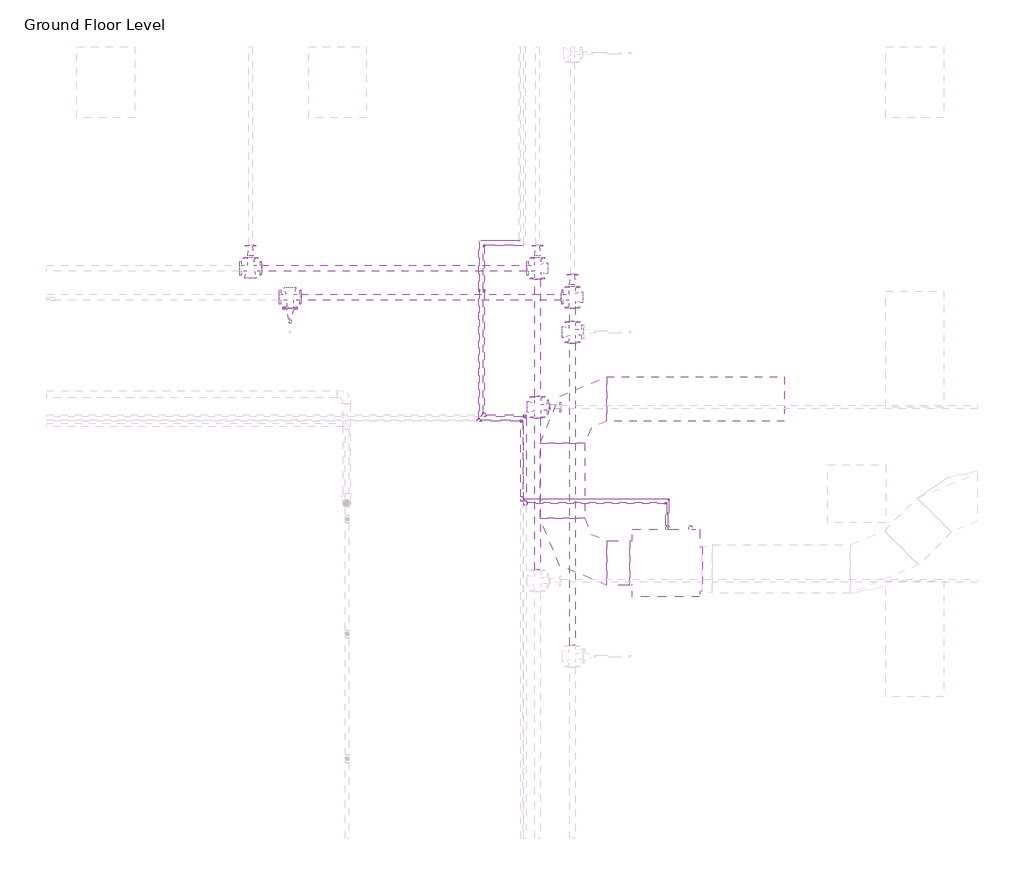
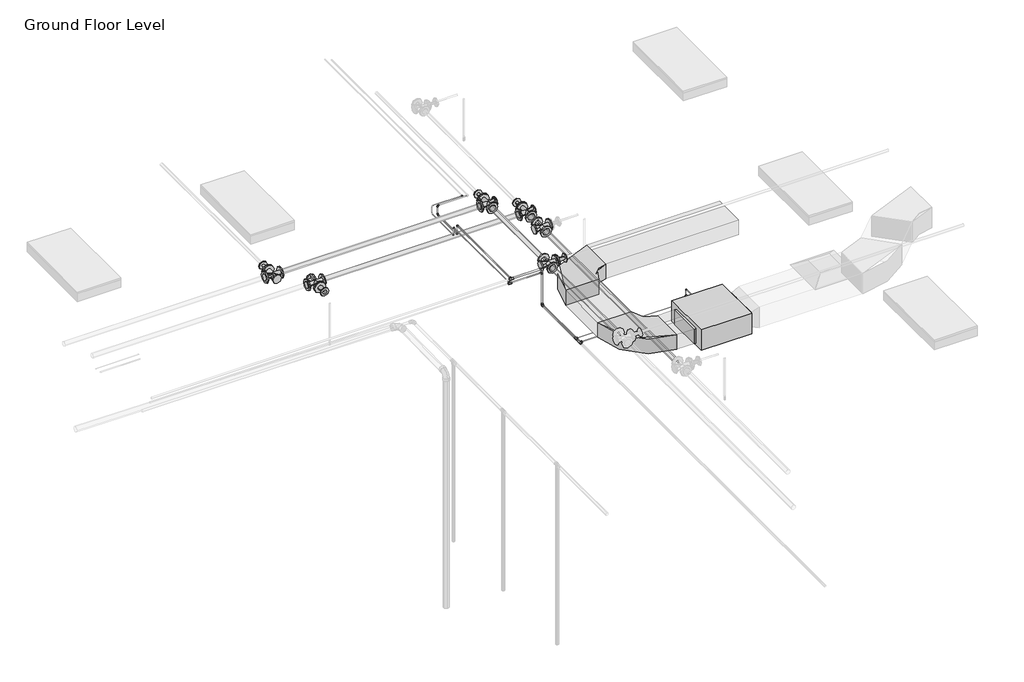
# One storey, part 66 of 72: 34 pipe fittings, 29 pipe segments, 3 duct segments, 2 duct fittings, 1 proxy.
"""IFC4 building model written with IfcOpenShell, lengths in millimetres."""

from ifc_helpers import new_model, si_unit, point, frame, frame_2d, origin, place, context, project, spatial, polyline, circle_curve, trimmed, segment, composite_curve, outline, extrude, transform, mapped, element, save
from components import fcu_daikin_iu_bad131e0, m_rectangular_elbow_radius_1_w_54c96895, m_elbow_generic_standard_a088f956, m_elbow_generic_standard_2a704253, m_elbow_generic_standard_73005802, m_elbow_generic_standard_bb5ffebe, m_reducer_flanged_cs_class_150_standard_a7631c35, m_reducer_flanged_cs_class_150_standard_55262df0, m_tee_generic_standard_cdc1cff5, m_tee_generic_standard_bbfc025c, m_tee_round_base_flanged_cs_class_150_standard_dd767e04, m_transition_generic_standard_e9aec4dd, m_transition_generic_standard_c2658a33

model = new_model("IFC4")

# Units and contexts
model_context = context("Model", 3, world=origin())
ifc_project = project(units=[si_unit("LENGTHUNIT", "METRE", prefix="MILLI")], contexts=[model_context])

# Site, building, storey
site = spatial("IfcSite", under=ifc_project)
building = spatial("IfcBuilding", under=site)
storey = spatial("IfcBuildingStorey", under=building, Name="Ground Floor Level", Elevation=900.0)

# Proxy
placement = place(None, origin())
fcu_daikin_iu_shape = fcu_daikin_iu_bad131e0(model_context)
element("IfcBuildingElementProxy", 1, Name="FCU-DAIKIN IU : 4.5kW, 230V/50Hz/1Ph", ObjectType="FCU-DAIKIN IU : 4.5kW, 230V/50Hz/1Ph", at=placement, inside=storey, context=model_context, shape_type="MappedRepresentation", body=[
    mapped(fcu_daikin_iu_shape, transform((6968.8139492, 12019.6779527, 3934.0932729), x_axis=(0.0, 1.0, 0.0), y_axis=(-1.0, 0.0, 0.0), z_axis=(0.0, 0.0, 1.0))),
])

# Duct fittings
m_rectangular_elbow_radius_1_w_shape = m_rectangular_elbow_radius_1_w_54c96895(model_context)
element("IfcDuctFitting", 2, ObjectType="M_Rectangular Elbow - Radius : 1 W", at=placement, inside=storey, context=model_context, shape_type="MappedRepresentation", body=[
    mapped(m_rectangular_elbow_radius_1_w_shape, transform((5893.4139492, 12019.6779527, 4075.2932729), x_axis=(0.0, -1.0, 0.0), y_axis=(1.0, 0.0, 0.0), z_axis=(0.0, 0.0, 1.0))),
])
element("IfcDuctFitting", 3, ObjectType="M_Rectangular Elbow - Radius : 1 W", at=placement, inside=storey, context=model_context, shape_type="MappedRepresentation", body=[
    mapped(m_rectangular_elbow_radius_1_w_shape, transform((5893.4139492, 13719.6783949, 4075.2932729), x_axis=(-1.0, 0.0, 0.0), y_axis=(0.0, -1.0, 0.0), z_axis=(0.0, 0.0, 1.0))),
])

# Duct segments
element("IfcDuctSegment", 4, ObjectType="Radius Elbows / Taps", at=placement, inside=storey, context=model_context, shape_type="SweptSolid", body=[
    extrude(outline(polyline([(6593.4139492, 12250.6154527), (6593.4139492, 11788.7404527), (6355.2889492, 11788.7404527), (6355.2889492, 12250.6154527), (6593.4139492, 12250.6154527)])), frame((0.0, 0.0, 3968.1432729), z_axis=(0.0, 0.0, 1.0), x_axis=(1.0, 0.0, 0.0)), (0.0, 0.0, 1.0), 214.3),
])
element("IfcDuctSegment", 5, ObjectType="Radius Elbows / Taps", at=placement, inside=storey, context=model_context, shape_type="SweptSolid", body=[
    extrude(outline(polyline([(6124.3514492, 12481.5529527), (5662.4764492, 12481.5529527), (5662.4764492, 13257.8033949), (6124.3514492, 13257.8033949), (6124.3514492, 12481.5529527)])), frame((0.0, 0.0, 3968.1432729), z_axis=(0.0, 0.0, 1.0), x_axis=(1.0, 0.0, 0.0)), (0.0, 0.0, 1.0), 214.3),
])
element("IfcDuctSegment", 6, ObjectType="Radius Elbows / Taps", at=placement, inside=storey, context=model_context, shape_type="SweptSolid", body=[
    extrude(outline(polyline([(6355.2889492, 13488.7408949), (6355.2889492, 13950.6158949), (8193.4139492, 13950.6158949), (8193.4139492, 13488.7408949), (6355.2889492, 13488.7408949)])), frame((0.0, 0.0, 3968.1432729), z_axis=(0.0, 0.0, 1.0), x_axis=(1.0, 0.0, 0.0)), (0.0, 0.0, 1.0), 214.3),
])

# Pipe fittings
m_elbow_generic_standard_shape = m_elbow_generic_standard_a088f956(model_context)
element("IfcPipeFitting", 7, ObjectType="M_Elbow - Generic : Standard", at=placement, inside=storey, context=model_context, shape_type="MappedRepresentation", body=[
    mapped(m_elbow_generic_standard_shape, transform((6968.8139492, 12641.4098545, 4034.0932729), x_axis=(0.0, 1.0, 0.0), y_axis=(0.0, 0.0, -1.0), z_axis=(-1.0, 0.0, 0.0))),
])
element("IfcPipeFitting", 8, ObjectType="M_Elbow - Generic : Standard", at=placement, inside=storey, context=model_context, shape_type="MappedRepresentation", body=[
    mapped(m_elbow_generic_standard_shape, transform((6968.8139492, 12641.4098545, 3851.8370709), x_axis=(0.0, 0.0, -1.0), y_axis=(-1.0, 0.0, 0.0), z_axis=(0.0, 1.0, 0.0))),
])
element("IfcPipeFitting", 9, ObjectType="M_Elbow - Generic : Standard", at=placement, inside=storey, context=model_context, shape_type="MappedRepresentation", body=[
    mapped(m_elbow_generic_standard_shape, transform((5079.6672395, 15310.9278534, 4380.0), x_axis=(-1.0, 0.0, 0.0), y_axis=(0.0, 0.0, -1.0), z_axis=(0.0, -1.0, 0.0))),
])
element("IfcPipeFitting", 10, ObjectType="M_Elbow - Generic : Standard", at=placement, inside=storey, context=model_context, shape_type="MappedRepresentation", body=[
    mapped(m_elbow_generic_standard_shape, transform((5079.6672395, 15310.9278534, 4250.0), x_axis=(0.0, 0.0, -1.0), y_axis=(0.0, -1.0, 0.0), z_axis=(-1.0, 0.0, 0.0))),
])
element("IfcPipeFitting", 11, ObjectType="M_Elbow - Generic : Standard", at=placement, inside=storey, context=model_context, shape_type="MappedRepresentation", body=[
    mapped(m_elbow_generic_standard_shape, transform((5079.6672395, 14839.2712401, 4250.0), x_axis=(0.0, -1.0, 0.0), y_axis=(0.0, 0.0, 1.0), z_axis=(-1.0, 0.0, 0.0))),
])
element("IfcPipeFitting", 12, ObjectType="M_Elbow - Generic : Standard", at=placement, inside=storey, context=model_context, shape_type="MappedRepresentation", body=[
    mapped(m_elbow_generic_standard_shape, transform((5079.6672395, 14839.2712401, 4380.0), x_axis=(0.0, 0.0, 1.0), y_axis=(0.0, -1.0, 0.0), z_axis=(1.0, 0.0, 0.0))),
])
m_elbow_generic_standard_2_shape = m_elbow_generic_standard_2a704253(model_context)
element("IfcPipeFitting", 13, ObjectType="M_Elbow - Generic : Standard", at=placement, inside=storey, context=model_context, shape_type="MappedRepresentation", body=[
    mapped(m_elbow_generic_standard_2_shape, transform((5452.0810646, 15359.0778534, 4365.0), x_axis=(1.0, 0.0, 0.0), y_axis=(0.0, 1.0, 0.0), z_axis=(0.0, 0.0, 1.0))),
])
element("IfcPipeFitting", 14, ObjectType="M_Elbow - Generic : Standard", at=placement, inside=storey, context=model_context, shape_type="MappedRepresentation", body=[
    mapped(m_elbow_generic_standard_2_shape, transform((6993.8139492, 12681.5253374, 4084.8932729), x_axis=(0.0, 1.0, 0.0), y_axis=(0.0, 0.0, -1.0), z_axis=(-1.0, 0.0, 0.0))),
])
element("IfcPipeFitting", 15, ObjectType="M_Elbow - Generic : Standard", at=placement, inside=storey, context=model_context, shape_type="MappedRepresentation", body=[
    mapped(m_elbow_generic_standard_2_shape, transform((6993.8139492, 12681.5253374, 3894.9), x_axis=(0.0, 0.0, -1.0), y_axis=(-1.0, 0.0, 0.0), z_axis=(0.0, 1.0, 0.0))),
])
element("IfcPipeFitting", 16, ObjectType="M_Elbow - Generic : Standard", at=placement, inside=storey, context=model_context, shape_type="MappedRepresentation", body=[
    mapped(m_elbow_generic_standard_2_shape, transform((5029.9807053, 14842.4877441, 4250.0), x_axis=(0.0, -1.0, 0.0), y_axis=(0.0, 0.0, 1.0), z_axis=(-1.0, 0.0, 0.0))),
])
element("IfcPipeFitting", 17, ObjectType="M_Elbow - Generic : Standard", at=placement, inside=storey, context=model_context, shape_type="MappedRepresentation", body=[
    mapped(m_elbow_generic_standard_2_shape, transform((5029.9807053, 14842.4877441, 4365.0), x_axis=(0.0, 0.0, 1.0), y_axis=(0.0, -1.0, 0.0), z_axis=(1.0, 0.0, 0.0))),
])
m_elbow_generic_standard_3_shape = m_elbow_generic_standard_73005802(model_context)
element("IfcPipeFitting", 18, ObjectType="M_Elbow - Generic : Standard", at=placement, inside=storey, context=model_context, shape_type="MappedRepresentation", body=[
    mapped(m_elbow_generic_standard_3_shape, transform((5505.0672395, 13545.2153534, 3851.8370709), x_axis=(0.0, 1.0, 0.0), y_axis=(0.0, 0.0, 1.0), z_axis=(1.0, 0.0, 0.0))),
])
element("IfcPipeFitting", 19, ObjectType="M_Elbow - Generic : Standard", at=placement, inside=storey, context=model_context, shape_type="MappedRepresentation", body=[
    mapped(m_elbow_generic_standard_3_shape, transform((5505.0672395, 13545.2153534, 4380.0), x_axis=(0.0, 0.0, 1.0), y_axis=(-1.0, 0.0, 0.0), z_axis=(0.0, -1.0, 0.0))),
])
m_elbow_generic_standard_4_shape = m_elbow_generic_standard_bb5ffebe(model_context)
element("IfcPipeFitting", 20, ObjectType="M_Elbow - Generic : Standard", at=placement, inside=storey, context=model_context, shape_type="MappedRepresentation", body=[
    mapped(m_elbow_generic_standard_4_shape, transform((5472.2057053, 13494.0185138, 3894.9), x_axis=(0.0, 1.0, 0.0), y_axis=(0.0, 0.0, 1.0), z_axis=(1.0, 0.0, 0.0))),
])
element("IfcPipeFitting", 21, ObjectType="M_Elbow - Generic : Standard", at=placement, inside=storey, context=model_context, shape_type="MappedRepresentation", body=[
    mapped(m_elbow_generic_standard_4_shape, transform((5472.2057053, 13494.0185138, 4365.0), x_axis=(0.0, 0.0, 1.0), y_axis=(-1.0, 0.0, 0.0), z_axis=(0.0, -1.0, 0.0))),
])
m_reducer_flanged_cs_class_150_standard_shape = m_reducer_flanged_cs_class_150_standard_a7631c35(model_context)
element("IfcPipeFitting", 22, ObjectType="M_Reducer - Flanged - CS - Class 150 : Standard", at=placement, inside=storey, context=model_context, shape_type="MappedRepresentation", body=[
    mapped(m_reducer_flanged_cs_class_150_standard_shape, transform((5997.057812, 14887.4681847, 4291.0943441), x_axis=(0.0, 1.0, 0.0), y_axis=(-1.0, 0.0, 0.0), z_axis=(0.0, 0.0, 1.0))),
])
element("IfcPipeFitting", 23, ObjectType="M_Reducer - Flanged - CS - Class 150 : Standard", at=placement, inside=storey, context=model_context, shape_type="MappedRepresentation", body=[
    mapped(m_reducer_flanged_cs_class_150_standard_shape, transform((2662.7672395, 15187.2009828, 4360.0), x_axis=(0.0, 1.0, 0.0), y_axis=(-1.0, 0.0, 0.0), z_axis=(0.0, 0.0, 1.0))),
])
element("IfcPipeFitting", 24, ObjectType="M_Reducer - Flanged - CS - Class 150 : Standard", at=placement, inside=storey, context=model_context, shape_type="MappedRepresentation", body=[
    mapped(m_reducer_flanged_cs_class_150_standard_shape, transform((5635.869498, 15187.2009828, 4360.0), x_axis=(0.0, 1.0, 0.0), y_axis=(-1.0, 0.0, 0.0), z_axis=(0.0, 0.0, 1.0))),
])
element("IfcPipeFitting", 25, ObjectType="M_Reducer - Flanged - CS - Class 150 : Standard", at=placement, inside=storey, context=model_context, shape_type="MappedRepresentation", body=[
    mapped(m_reducer_flanged_cs_class_150_standard_shape, transform((5749.869498, 13635.2153534, 4360.0), x_axis=(1.0, 0.0, 0.0), y_axis=(0.0, 0.0, 1.0), z_axis=(0.0, -1.0, 0.0))),
])
m_reducer_flanged_cs_class_150_standard_2_shape = m_reducer_flanged_cs_class_150_standard_55262df0(model_context)
element("IfcPipeFitting", 26, ObjectType="M_Reducer - Flanged - CS - Class 150 : Standard", at=placement, inside=storey, context=model_context, shape_type="MappedRepresentation", body=[
    mapped(m_reducer_flanged_cs_class_150_standard_2_shape, transform((3071.8868905, 14659.4681847, 4291.0943441), x_axis=(0.0, -1.0, 0.0), y_axis=(1.0, 0.0, 0.0), z_axis=(0.0, 0.0, 1.0))),
])
m_tee_generic_standard_shape = m_tee_generic_standard_cdc1cff5(model_context)
element("IfcPipeFitting", 27, ObjectType="M_Tee - Generic : Standard", at=placement, inside=storey, context=model_context, shape_type="MappedRepresentation", body=[
    mapped(m_tee_generic_standard_shape, transform((5472.2057053, 12681.5253374, 3894.9), x_axis=(0.0, 1.0, 0.0), y_axis=(-1.0, 0.0, 0.0), z_axis=(0.0, 0.0, 1.0))),
])
element("IfcPipeFitting", 28, ObjectType="M_Tee - Generic : Standard", at=placement, inside=storey, context=model_context, shape_type="MappedRepresentation", body=[
    mapped(m_tee_generic_standard_shape, transform((5029.9807053, 13494.0185138, 4365.0), x_axis=(-1.0, 0.0, 0.0), y_axis=(0.0, -1.0, 0.0), z_axis=(0.0, 0.0, 1.0))),
])
m_tee_generic_standard_2_shape = m_tee_generic_standard_bbfc025c(model_context)
element("IfcPipeFitting", 29, ObjectType="M_Tee - Generic : Standard", at=placement, inside=storey, context=model_context, shape_type="MappedRepresentation", body=[
    mapped(m_tee_generic_standard_2_shape, transform((5505.0672395, 12641.4098545, 3851.8370709), x_axis=(0.0, 1.0, 0.0), y_axis=(-1.0, 0.0, 0.0), z_axis=(0.0, 0.0, 1.0))),
])
element("IfcPipeFitting", 30, ObjectType="M_Tee - Generic : Standard", at=placement, inside=storey, context=model_context, shape_type="MappedRepresentation", body=[
    mapped(m_tee_generic_standard_2_shape, transform((5079.6672395, 13545.2153534, 4380.0), x_axis=(-1.0, 0.0, 0.0), y_axis=(0.0, -1.0, 0.0), z_axis=(0.0, 0.0, 1.0))),
])
m_tee_round_base_flanged_cs_class_150_standard_shape = m_tee_round_base_flanged_cs_class_150_standard_dd767e04(model_context)
element("IfcPipeFitting", 31, ObjectType="M_Tee Round Base - Flanged - CS - Class 150 : Standard", at=placement, inside=storey, context=model_context, shape_type="MappedRepresentation", body=[
    mapped(m_tee_round_base_flanged_cs_class_150_standard_shape, transform((5997.057812, 14773.4681847, 4291.0943441), x_axis=(0.0, -1.0, 0.0), y_axis=(1.0, 0.0, 0.0), z_axis=(0.0, 0.0, 1.0))),
])
element("IfcPipeFitting", 32, ObjectType="M_Tee Round Base - Flanged - CS - Class 150 : Standard", at=placement, inside=storey, context=model_context, shape_type="MappedRepresentation", body=[
    mapped(m_tee_round_base_flanged_cs_class_150_standard_shape, transform((3071.8868905, 14773.4681847, 4291.0943441), x_axis=(-1.0, 0.0, 0.0), y_axis=(0.0, 1.0, 0.0), z_axis=(0.0, 0.0, -1.0))),
])
element("IfcPipeFitting", 33, ObjectType="M_Tee Round Base - Flanged - CS - Class 150 : Standard", at=placement, inside=storey, context=model_context, shape_type="MappedRepresentation", body=[
    mapped(m_tee_round_base_flanged_cs_class_150_standard_shape, transform((5997.057812, 14412.7243649, 4291.0943441), x_axis=(0.0, 1.0, 0.0), y_axis=(-1.0, 0.0, 0.0), z_axis=(0.0, 0.0, 1.0))),
])
element("IfcPipeFitting", 34, ObjectType="M_Tee Round Base - Flanged - CS - Class 150 : Standard", at=placement, inside=storey, context=model_context, shape_type="MappedRepresentation", body=[
    mapped(m_tee_round_base_flanged_cs_class_150_standard_shape, transform((2662.7672395, 15073.2009828, 4360.0), x_axis=(-1.0, 0.0, 0.0), y_axis=(0.0, -1.0, 0.0), z_axis=(0.0, 0.0, 1.0))),
])
element("IfcPipeFitting", 35, ObjectType="M_Tee Round Base - Flanged - CS - Class 150 : Standard", at=placement, inside=storey, context=model_context, shape_type="MappedRepresentation", body=[
    mapped(m_tee_round_base_flanged_cs_class_150_standard_shape, transform((5635.869498, 15073.2009828, 4360.0), x_axis=(0.0, -1.0, 0.0), y_axis=(1.0, 0.0, 0.0), z_axis=(0.0, 0.0, 1.0))),
])
element("IfcPipeFitting", 36, ObjectType="M_Tee Round Base - Flanged - CS - Class 150 : Standard", at=placement, inside=storey, context=model_context, shape_type="MappedRepresentation", body=[
    mapped(m_tee_round_base_flanged_cs_class_150_standard_shape, transform((5635.869498, 13635.2153534, 4360.0), x_axis=(0.0, 1.0, 0.0), y_axis=(-1.0, 0.0, 0.0), z_axis=(0.0, 0.0, 1.0))),
])
m_transition_generic_standard_shape = m_transition_generic_standard_e9aec4dd(model_context)
element("IfcPipeFitting", 37, ObjectType="M_Transition - Generic : Standard", at=placement, inside=storey, context=model_context, shape_type="MappedRepresentation", body=[
    mapped(m_transition_generic_standard_shape, transform((5530.4672395, 12641.4098545, 3851.8370709), x_axis=(1.0, 0.0, 0.0), y_axis=(0.0, 1.0, 0.0), z_axis=(0.0, 0.0, 1.0))),
])
element("IfcPipeFitting", 38, ObjectType="M_Transition - Generic : Standard", at=placement, inside=storey, context=model_context, shape_type="MappedRepresentation", body=[
    mapped(m_transition_generic_standard_shape, transform((5079.6672395, 13570.6153534, 4380.0), x_axis=(0.0, 1.0, 0.0), y_axis=(-1.0, 0.0, 0.0), z_axis=(0.0, 0.0, 1.0))),
])
m_transition_generic_standard_2_shape = m_transition_generic_standard_c2658a33(model_context)
element("IfcPipeFitting", 39, ObjectType="M_Transition - Generic : Standard", at=placement, inside=storey, context=model_context, shape_type="MappedRepresentation", body=[
    mapped(m_transition_generic_standard_2_shape, transform((5494.4307053, 12681.5253374, 3894.9), x_axis=(1.0, 0.0, 0.0), y_axis=(0.0, 1.0, 0.0), z_axis=(0.0, 0.0, 1.0))),
])
element("IfcPipeFitting", 40, ObjectType="M_Transition - Generic : Standard", at=placement, inside=storey, context=model_context, shape_type="MappedRepresentation", body=[
    mapped(m_transition_generic_standard_2_shape, transform((5029.9807053, 13516.2435138, 4365.0), x_axis=(0.0, 1.0, 0.0), y_axis=(-1.0, 0.0, 0.0), z_axis=(0.0, 0.0, 1.0))),
])

# Pipe segments
element("IfcPipeSegment", 41, ObjectType="Copper", at=placement, inside=storey, context=model_context, shape_type="SweptSolid", body=[
    extrude(outline(composite_curve([segment(trimmed(circle_curve(frame_2d((13494.0185138, 4365.0)), 8.1), [point((13485.9185138, 4365.0))], [point((13494.0185138, 4373.1))], False, "CARTESIAN"), True, "CONTINUOUS"), segment(trimmed(circle_curve(frame_2d((13494.0185138, 4365.0)), 8.1), [point((13494.0185138, 4373.1))], [point((13502.1185138, 4365.0))], False, "CARTESIAN"), True, "CONTINUOUS"), segment(trimmed(circle_curve(frame_2d((13494.0185138, 4365.0)), 8.1), [point((13502.1185138, 4365.0))], [point((13494.0185138, 4356.9))], False, "CARTESIAN"), True, "CONTINUOUS"), segment(trimmed(circle_curve(frame_2d((13494.0185138, 4365.0)), 8.1), [point((13494.0185138, 4356.9))], [point((13485.9185138, 4365.0))], False, "CARTESIAN"), True, "CONTINUOUS")], self_intersect=False)), frame((5052.2057053, 0.0, 0.0), z_axis=(1.0, 0.0, 0.0), x_axis=(0.0, 1.0, 0.0)), (0.0, 0.0, 1.0), 404.125),
])
element("IfcPipeSegment", 42, ObjectType="Copper", at=placement, inside=storey, context=model_context, shape_type="SweptSolid", body=[
    extrude(outline(composite_curve([segment(trimmed(circle_curve(frame_2d((15359.0778534, 4365.0)), 3.35), [point((15355.7278534, 4365.0))], [point((15359.0778534, 4368.35))], False, "CARTESIAN"), True, "CONTINUOUS"), segment(trimmed(circle_curve(frame_2d((15359.0778534, 4365.0)), 3.35), [point((15359.0778534, 4368.35))], [point((15362.4278534, 4365.0))], False, "CARTESIAN"), True, "CONTINUOUS"), segment(trimmed(circle_curve(frame_2d((15359.0778534, 4365.0)), 3.35), [point((15362.4278534, 4365.0))], [point((15359.0778534, 4361.65))], False, "CARTESIAN"), True, "CONTINUOUS"), segment(trimmed(circle_curve(frame_2d((15359.0778534, 4365.0)), 3.35), [point((15359.0778534, 4361.65))], [point((15355.7278534, 4365.0))], False, "CARTESIAN"), True, "CONTINUOUS")], self_intersect=False)), frame((5041.1182053, 0.0, 0.0), z_axis=(1.0, 0.0, 0.0), x_axis=(0.0, 1.0, 0.0)), (0.0, 0.0, 1.0), 399.8253593),
])
element("IfcPipeSegment", 43, ObjectType="Copper", at=placement, inside=storey, context=model_context, shape_type="SweptSolid", body=[
    extrude(outline(composite_curve([segment(trimmed(circle_curve(frame_2d((15310.9278534, 4380.0)), 6.5), [point((15304.4278534, 4380.0))], [point((15310.9278534, 4386.5))], False, "CARTESIAN"), True, "CONTINUOUS"), segment(trimmed(circle_curve(frame_2d((15310.9278534, 4380.0)), 6.5), [point((15310.9278534, 4386.5))], [point((15317.4278534, 4380.0))], False, "CARTESIAN"), True, "CONTINUOUS"), segment(trimmed(circle_curve(frame_2d((15310.9278534, 4380.0)), 6.5), [point((15317.4278534, 4380.0))], [point((15310.9278534, 4373.5))], False, "CARTESIAN"), True, "CONTINUOUS"), segment(trimmed(circle_curve(frame_2d((15310.9278534, 4380.0)), 6.5), [point((15310.9278534, 4373.5))], [point((15304.4278534, 4380.0))], False, "CARTESIAN"), True, "CONTINUOUS")], self_intersect=False)), frame((5093.9547395, 0.0, 0.0), z_axis=(1.0, 0.0, 0.0), x_axis=(0.0, 1.0, 0.0)), (0.0, 0.0, 1.0), 393.5253593),
])
element("IfcPipeSegment", 44, ObjectType="Copper", at=placement, inside=storey, context=model_context, shape_type="SweptSolid", body=[
    extrude(outline(composite_curve([segment(trimmed(circle_curve(frame_2d((12681.5253374, 3894.9)), 3.35), [point((12684.8753374, 3894.9))], [point((12681.5253374, 3891.55))], False, "CARTESIAN"), True, "CONTINUOUS"), segment(trimmed(circle_curve(frame_2d((12681.5253374, 3894.9)), 3.35), [point((12681.5253374, 3891.55))], [point((12678.1753374, 3894.9))], False, "CARTESIAN"), True, "CONTINUOUS"), segment(trimmed(circle_curve(frame_2d((12681.5253374, 3894.9)), 3.35), [point((12678.1753374, 3894.9))], [point((12681.5253374, 3898.25))], False, "CARTESIAN"), True, "CONTINUOUS"), segment(trimmed(circle_curve(frame_2d((12681.5253374, 3894.9)), 3.35), [point((12681.5253374, 3898.25))], [point((12684.8753374, 3894.9))], False, "CARTESIAN"), True, "CONTINUOUS")], self_intersect=False)), frame((5499.1932053, 0.0, 0.0), z_axis=(1.0, 0.0, 0.0), x_axis=(0.0, 1.0, 0.0)), (0.0, 0.0, 1.0), 1483.483244),
])
element("IfcPipeSegment", 45, ObjectType="Copper", at=placement, inside=storey, context=model_context, shape_type="SweptSolid", body=[
    extrude(outline(composite_curve([segment(trimmed(circle_curve(frame_2d((12641.4098545, 3851.8370709)), 6.5), [point((12647.9098545, 3851.8370709))], [point((12641.4098545, 3845.3370709))], False, "CARTESIAN"), True, "CONTINUOUS"), segment(trimmed(circle_curve(frame_2d((12641.4098545, 3851.8370709)), 6.5), [point((12641.4098545, 3845.3370709))], [point((12634.9098545, 3851.8370709))], False, "CARTESIAN"), True, "CONTINUOUS"), segment(trimmed(circle_curve(frame_2d((12641.4098545, 3851.8370709)), 6.5), [point((12634.9098545, 3851.8370709))], [point((12641.4098545, 3858.3370709))], False, "CARTESIAN"), True, "CONTINUOUS"), segment(trimmed(circle_curve(frame_2d((12641.4098545, 3851.8370709)), 6.5), [point((12641.4098545, 3858.3370709))], [point((12647.9098545, 3851.8370709))], False, "CARTESIAN"), True, "CONTINUOUS")], self_intersect=False)), frame((5536.8172395, 0.0, 0.0), z_axis=(1.0, 0.0, 0.0), x_axis=(0.0, 1.0, 0.0)), (0.0, 0.0, 1.0), 1417.7092098),
])
element("IfcPipeSegment", 46, ObjectType="Copper", at=placement, inside=storey, context=model_context, shape_type="SweptSolid", body=[
    extrude(outline(composite_curve([segment(trimmed(circle_curve(frame_2d((4034.0932729, 6968.8139492)), 6.5), [point((4034.0932729, 6975.3139492))], [point((4040.5932729, 6968.8139492))], False, "CARTESIAN"), True, "CONTINUOUS"), segment(trimmed(circle_curve(frame_2d((4034.0932729, 6968.8139492)), 6.5), [point((4040.5932729, 6968.8139492))], [point((4034.0932729, 6962.3139492))], False, "CARTESIAN"), True, "CONTINUOUS"), segment(trimmed(circle_curve(frame_2d((4034.0932729, 6968.8139492)), 6.5), [point((4034.0932729, 6962.3139492))], [point((4027.5932729, 6968.8139492))], False, "CARTESIAN"), True, "CONTINUOUS"), segment(trimmed(circle_curve(frame_2d((4034.0932729, 6968.8139492)), 6.5), [point((4027.5932729, 6968.8139492))], [point((4034.0932729, 6975.3139492))], False, "CARTESIAN"), True, "CONTINUOUS")], self_intersect=False)), frame((0.0, 12407.7779527, 0.0), z_axis=(0.0, 1.0, 0.0), x_axis=(0.0, 0.0, 1.0)), (0.0, 0.0, 1.0), 219.3444019),
])
element("IfcPipeSegment", 47, ObjectType="Copper", at=placement, inside=storey, context=model_context, shape_type="SweptSolid", body=[
    extrude(outline(composite_curve([segment(trimmed(circle_curve(frame_2d((4084.8932729, 6993.8139492)), 3.35), [point((4084.8932729, 6997.1639492))], [point((4088.2432729, 6993.8139492))], False, "CARTESIAN"), True, "CONTINUOUS"), segment(trimmed(circle_curve(frame_2d((4084.8932729, 6993.8139492)), 3.35), [point((4088.2432729, 6993.8139492))], [point((4084.8932729, 6990.4639492))], False, "CARTESIAN"), True, "CONTINUOUS"), segment(trimmed(circle_curve(frame_2d((4084.8932729, 6993.8139492)), 3.35), [point((4084.8932729, 6990.4639492))], [point((4081.5432729, 6993.8139492))], False, "CARTESIAN"), True, "CONTINUOUS"), segment(trimmed(circle_curve(frame_2d((4084.8932729, 6993.8139492)), 3.35), [point((4081.5432729, 6993.8139492))], [point((4084.8932729, 6997.1639492))], False, "CARTESIAN"), True, "CONTINUOUS")], self_intersect=False)), frame((0.0, 12407.7779527, 0.0), z_axis=(0.0, 1.0, 0.0), x_axis=(0.0, 0.0, 1.0)), (0.0, 0.0, 1.0), 262.6098848),
])
element("IfcPipeSegment", 48, ObjectType="Copper", at=placement, inside=storey, context=model_context, shape_type="SweptSolid", body=[
    extrude(outline(composite_curve([segment(trimmed(circle_curve(frame_2d((5505.0672395, 13545.2153534)), 11.5), [point((5493.5672395, 13545.2153534))], [point((5505.0672395, 13556.7153534))], False, "CARTESIAN"), True, "CONTINUOUS"), segment(trimmed(circle_curve(frame_2d((5505.0672395, 13545.2153534)), 11.5), [point((5505.0672395, 13556.7153534))], [point((5516.5672395, 13545.2153534))], False, "CARTESIAN"), True, "CONTINUOUS"), segment(trimmed(circle_curve(frame_2d((5505.0672395, 13545.2153534)), 11.5), [point((5516.5672395, 13545.2153534))], [point((5505.0672395, 13533.7153534))], False, "CARTESIAN"), True, "CONTINUOUS"), segment(trimmed(circle_curve(frame_2d((5505.0672395, 13545.2153534)), 11.5), [point((5505.0672395, 13533.7153534))], [point((5493.5672395, 13545.2153534))], False, "CARTESIAN"), True, "CONTINUOUS")], self_intersect=False)), frame((0.0, 0.0, 3870.8870709), z_axis=(0.0, 0.0, 1.0), x_axis=(1.0, 0.0, 0.0)), (0.0, 0.0, 1.0), 490.0629291),
])
element("IfcPipeSegment", 49, ObjectType="Copper", at=placement, inside=storey, context=model_context, shape_type="SweptSolid", body=[
    extrude(outline(composite_curve([segment(trimmed(circle_curve(frame_2d((5472.2057053, 13494.0185138)), 8.1), [point((5464.1057053, 13494.0185138))], [point((5472.2057053, 13502.1185138))], False, "CARTESIAN"), True, "CONTINUOUS"), segment(trimmed(circle_curve(frame_2d((5472.2057053, 13494.0185138)), 8.1), [point((5472.2057053, 13502.1185138))], [point((5480.3057053, 13494.0185138))], False, "CARTESIAN"), True, "CONTINUOUS"), segment(trimmed(circle_curve(frame_2d((5472.2057053, 13494.0185138)), 8.1), [point((5480.3057053, 13494.0185138))], [point((5472.2057053, 13485.9185138))], False, "CARTESIAN"), True, "CONTINUOUS"), segment(trimmed(circle_curve(frame_2d((5472.2057053, 13494.0185138)), 8.1), [point((5472.2057053, 13485.9185138))], [point((5464.1057053, 13494.0185138))], False, "CARTESIAN"), True, "CONTINUOUS")], self_intersect=False)), frame((0.0, 0.0, 3910.775), z_axis=(0.0, 0.0, 1.0), x_axis=(1.0, 0.0, 0.0)), (0.0, 0.0, 1.0), 438.35),
])
element("IfcPipeSegment", 50, ObjectType="Copper", at=placement, inside=storey, context=model_context, shape_type="SweptSolid", body=[
    extrude(outline(composite_curve([segment(trimmed(circle_curve(frame_2d((6968.8139492, 12641.4098545)), 6.5), [point((6975.3139492, 12641.4098545))], [point((6968.8139492, 12634.9098545))], False, "CARTESIAN"), True, "CONTINUOUS"), segment(trimmed(circle_curve(frame_2d((6968.8139492, 12641.4098545)), 6.5), [point((6968.8139492, 12634.9098545))], [point((6962.3139492, 12641.4098545))], False, "CARTESIAN"), True, "CONTINUOUS"), segment(trimmed(circle_curve(frame_2d((6968.8139492, 12641.4098545)), 6.5), [point((6962.3139492, 12641.4098545))], [point((6968.8139492, 12647.9098545))], False, "CARTESIAN"), True, "CONTINUOUS"), segment(trimmed(circle_curve(frame_2d((6968.8139492, 12641.4098545)), 6.5), [point((6968.8139492, 12647.9098545))], [point((6975.3139492, 12641.4098545))], False, "CARTESIAN"), True, "CONTINUOUS")], self_intersect=False)), frame((0.0, 0.0, 3866.1245709), z_axis=(0.0, 0.0, 1.0), x_axis=(1.0, 0.0, 0.0)), (0.0, 0.0, 1.0), 153.6812021),
])
element("IfcPipeSegment", 51, ObjectType="Copper", at=placement, inside=storey, context=model_context, shape_type="SweptSolid", body=[
    extrude(outline(composite_curve([segment(trimmed(circle_curve(frame_2d((3851.8370709, 5505.0672395)), 11.5), [point((3851.8370709, 5493.5672395))], [point((3840.3370709, 5505.0672395))], False, "CARTESIAN"), True, "CONTINUOUS"), segment(trimmed(circle_curve(frame_2d((3851.8370709, 5505.0672395)), 11.5), [point((3840.3370709, 5505.0672395))], [point((3851.8370709, 5516.5672395))], False, "CARTESIAN"), True, "CONTINUOUS"), segment(trimmed(circle_curve(frame_2d((3851.8370709, 5505.0672395)), 11.5), [point((3851.8370709, 5516.5672395))], [point((3863.3370709, 5505.0672395))], False, "CARTESIAN"), True, "CONTINUOUS"), segment(trimmed(circle_curve(frame_2d((3851.8370709, 5505.0672395)), 11.5), [point((3863.3370709, 5505.0672395))], [point((3851.8370709, 5493.5672395))], False, "CARTESIAN"), True, "CONTINUOUS")], self_intersect=False)), frame((0.0, 12666.8098545, 0.0), z_axis=(0.0, 1.0, 0.0), x_axis=(0.0, 0.0, 1.0)), (0.0, 0.0, 1.0), 859.3554989),
])
element("IfcPipeSegment", 52, ObjectType="Copper", at=placement, inside=storey, context=model_context, shape_type="SweptSolid", body=[
    extrude(outline(composite_curve([segment(trimmed(circle_curve(frame_2d((6993.8139492, 12681.5253374)), 3.35), [point((6997.1639492, 12681.5253374))], [point((6993.8139492, 12678.1753374))], False, "CARTESIAN"), True, "CONTINUOUS"), segment(trimmed(circle_curve(frame_2d((6993.8139492, 12681.5253374)), 3.35), [point((6993.8139492, 12678.1753374))], [point((6990.4639492, 12681.5253374))], False, "CARTESIAN"), True, "CONTINUOUS"), segment(trimmed(circle_curve(frame_2d((6993.8139492, 12681.5253374)), 3.35), [point((6990.4639492, 12681.5253374))], [point((6993.8139492, 12684.8753374))], False, "CARTESIAN"), True, "CONTINUOUS"), segment(trimmed(circle_curve(frame_2d((6993.8139492, 12681.5253374)), 3.35), [point((6993.8139492, 12684.8753374))], [point((6997.1639492, 12681.5253374))], False, "CARTESIAN"), True, "CONTINUOUS")], self_intersect=False)), frame((0.0, 0.0, 3906.0375), z_axis=(0.0, 0.0, 1.0), x_axis=(1.0, 0.0, 0.0)), (0.0, 0.0, 1.0), 167.7182729),
])
element("IfcPipeSegment", 53, ObjectType="Copper", at=placement, inside=storey, context=model_context, shape_type="SweptSolid", body=[
    extrude(outline(composite_curve([segment(trimmed(circle_curve(frame_2d((3894.9, 5472.2057053)), 8.1), [point((3894.9, 5464.1057053))], [point((3886.8, 5472.2057053))], False, "CARTESIAN"), True, "CONTINUOUS"), segment(trimmed(circle_curve(frame_2d((3894.9, 5472.2057053)), 8.1), [point((3886.8, 5472.2057053))], [point((3894.9, 5480.3057053))], False, "CARTESIAN"), True, "CONTINUOUS"), segment(trimmed(circle_curve(frame_2d((3894.9, 5472.2057053)), 8.1), [point((3894.9, 5480.3057053))], [point((3903.0, 5472.2057053))], False, "CARTESIAN"), True, "CONTINUOUS"), segment(trimmed(circle_curve(frame_2d((3894.9, 5472.2057053)), 8.1), [point((3903.0, 5472.2057053))], [point((3894.9, 5464.1057053))], False, "CARTESIAN"), True, "CONTINUOUS")], self_intersect=False)), frame((0.0, 12703.7503374, 0.0), z_axis=(0.0, 1.0, 0.0), x_axis=(0.0, 0.0, 1.0)), (0.0, 0.0, 1.0), 774.3931764),
])
element("IfcPipeSegment", 54, ObjectType="Copper", at=placement, inside=storey, context=model_context, shape_type="SweptSolid", body=[
    extrude(outline(composite_curve([segment(trimmed(circle_curve(frame_2d((4380.0, 5079.6672395)), 6.5), [point((4380.0, 5086.1672395))], [point((4386.5, 5079.6672395))], False, "CARTESIAN"), True, "CONTINUOUS"), segment(trimmed(circle_curve(frame_2d((4380.0, 5079.6672395)), 6.5), [point((4386.5, 5079.6672395))], [point((4380.0, 5073.1672395))], False, "CARTESIAN"), True, "CONTINUOUS"), segment(trimmed(circle_curve(frame_2d((4380.0, 5079.6672395)), 6.5), [point((4380.0, 5073.1672395))], [point((4373.5, 5079.6672395))], False, "CARTESIAN"), True, "CONTINUOUS"), segment(trimmed(circle_curve(frame_2d((4380.0, 5079.6672395)), 6.5), [point((4373.5, 5079.6672395))], [point((4380.0, 5086.1672395))], False, "CARTESIAN"), True, "CONTINUOUS")], self_intersect=False)), frame((0.0, 13576.9653534, 0.0), z_axis=(0.0, 1.0, 0.0), x_axis=(0.0, 0.0, 1.0)), (0.0, 0.0, 1.0), 1248.0183867),
])
element("IfcPipeSegment", 55, ObjectType="Copper", at=placement, inside=storey, context=model_context, shape_type="SweptSolid", body=[
    extrude(outline(composite_curve([segment(trimmed(circle_curve(frame_2d((4250.0, 5079.6672395)), 6.5), [point((4250.0, 5073.1672395))], [point((4243.5, 5079.6672395))], False, "CARTESIAN"), True, "CONTINUOUS"), segment(trimmed(circle_curve(frame_2d((4250.0, 5079.6672395)), 6.5), [point((4243.5, 5079.6672395))], [point((4250.0, 5086.1672395))], False, "CARTESIAN"), True, "CONTINUOUS"), segment(trimmed(circle_curve(frame_2d((4250.0, 5079.6672395)), 6.5), [point((4250.0, 5086.1672395))], [point((4256.5, 5079.6672395))], False, "CARTESIAN"), True, "CONTINUOUS"), segment(trimmed(circle_curve(frame_2d((4250.0, 5079.6672395)), 6.5), [point((4256.5, 5079.6672395))], [point((4250.0, 5073.1672395))], False, "CARTESIAN"), True, "CONTINUOUS")], self_intersect=False)), frame((0.0, 14853.5587401, 0.0), z_axis=(0.0, 1.0, 0.0), x_axis=(0.0, 0.0, 1.0)), (0.0, 0.0, 1.0), 443.0816133),
])
element("IfcPipeSegment", 56, ObjectType="Copper", at=placement, inside=storey, context=model_context, shape_type="SweptSolid", body=[
    extrude(outline(composite_curve([segment(trimmed(circle_curve(frame_2d((4250.0, 5029.9807053)), 3.35), [point((4250.0, 5026.6307053))], [point((4246.65, 5029.9807053))], False, "CARTESIAN"), True, "CONTINUOUS"), segment(trimmed(circle_curve(frame_2d((4250.0, 5029.9807053)), 3.35), [point((4246.65, 5029.9807053))], [point((4250.0, 5033.3307053))], False, "CARTESIAN"), True, "CONTINUOUS"), segment(trimmed(circle_curve(frame_2d((4250.0, 5029.9807053)), 3.35), [point((4250.0, 5033.3307053))], [point((4253.35, 5029.9807053))], False, "CARTESIAN"), True, "CONTINUOUS"), segment(trimmed(circle_curve(frame_2d((4250.0, 5029.9807053)), 3.35), [point((4253.35, 5029.9807053))], [point((4250.0, 5026.6307053))], False, "CARTESIAN"), True, "CONTINUOUS")], self_intersect=False)), frame((0.0, 14853.6252441, 0.0), z_axis=(0.0, 1.0, 0.0), x_axis=(0.0, 0.0, 1.0)), (0.0, 0.0, 1.0), 494.3151093),
])
element("IfcPipeSegment", 57, ObjectType="Copper", at=placement, inside=storey, context=model_context, shape_type="SweptSolid", body=[
    extrude(outline(composite_curve([segment(trimmed(circle_curve(frame_2d((4365.0, 5029.9807053)), 3.35), [point((4365.0, 5033.3307053))], [point((4368.35, 5029.9807053))], False, "CARTESIAN"), True, "CONTINUOUS"), segment(trimmed(circle_curve(frame_2d((4365.0, 5029.9807053)), 3.35), [point((4368.35, 5029.9807053))], [point((4365.0, 5026.6307053))], False, "CARTESIAN"), True, "CONTINUOUS"), segment(trimmed(circle_curve(frame_2d((4365.0, 5029.9807053)), 3.35), [point((4365.0, 5026.6307053))], [point((4361.65, 5029.9807053))], False, "CARTESIAN"), True, "CONTINUOUS"), segment(trimmed(circle_curve(frame_2d((4365.0, 5029.9807053)), 3.35), [point((4361.65, 5029.9807053))], [point((4365.0, 5033.3307053))], False, "CARTESIAN"), True, "CONTINUOUS")], self_intersect=False)), frame((0.0, 13521.0060138, 0.0), z_axis=(0.0, 1.0, 0.0), x_axis=(0.0, 0.0, 1.0)), (0.0, 0.0, 1.0), 1310.3442303),
])
element("IfcPipeSegment", 58, ObjectType="Copper", at=placement, inside=storey, context=model_context, shape_type="SweptSolid", body=[
    extrude(outline(composite_curve([segment(trimmed(circle_curve(frame_2d((5079.6672395, 15310.9278534)), 6.5), [point((5086.1672395, 15310.9278534))], [point((5079.6672395, 15304.4278534))], False, "CARTESIAN"), True, "CONTINUOUS"), segment(trimmed(circle_curve(frame_2d((5079.6672395, 15310.9278534)), 6.5), [point((5079.6672395, 15304.4278534))], [point((5073.1672395, 15310.9278534))], False, "CARTESIAN"), True, "CONTINUOUS"), segment(trimmed(circle_curve(frame_2d((5079.6672395, 15310.9278534)), 6.5), [point((5073.1672395, 15310.9278534))], [point((5079.6672395, 15317.4278534))], False, "CARTESIAN"), True, "CONTINUOUS"), segment(trimmed(circle_curve(frame_2d((5079.6672395, 15310.9278534)), 6.5), [point((5079.6672395, 15317.4278534))], [point((5086.1672395, 15310.9278534))], False, "CARTESIAN"), True, "CONTINUOUS")], self_intersect=False)), frame((0.0, 0.0, 4264.2875), z_axis=(0.0, 0.0, 1.0), x_axis=(1.0, 0.0, 0.0)), (0.0, 0.0, 1.0), 101.425),
])
element("IfcPipeSegment", 59, ObjectType="Copper", at=placement, inside=storey, context=model_context, shape_type="SweptSolid", body=[
    extrude(outline(composite_curve([segment(trimmed(circle_curve(frame_2d((5029.9807053, 15359.0778534)), 3.35), [point((5033.3307053, 15359.0778534))], [point((5029.9807053, 15355.7278534))], False, "CARTESIAN"), True, "CONTINUOUS"), segment(trimmed(circle_curve(frame_2d((5029.9807053, 15359.0778534)), 3.35), [point((5029.9807053, 15355.7278534))], [point((5026.6307053, 15359.0778534))], False, "CARTESIAN"), True, "CONTINUOUS"), segment(trimmed(circle_curve(frame_2d((5029.9807053, 15359.0778534)), 3.35), [point((5026.6307053, 15359.0778534))], [point((5029.9807053, 15362.4278534))], False, "CARTESIAN"), True, "CONTINUOUS"), segment(trimmed(circle_curve(frame_2d((5029.9807053, 15359.0778534)), 3.35), [point((5029.9807053, 15362.4278534))], [point((5033.3307053, 15359.0778534))], False, "CARTESIAN"), True, "CONTINUOUS")], self_intersect=False)), frame((0.0, 0.0, 4261.1375), z_axis=(0.0, 0.0, 1.0), x_axis=(1.0, 0.0, 0.0)), (0.0, 0.0, 1.0), 92.725),
])
element("IfcPipeSegment", 60, ObjectType="Copper", at=placement, inside=storey, context=model_context, shape_type="SweptSolid", body=[
    extrude(outline(composite_curve([segment(trimmed(circle_curve(frame_2d((5029.9807053, 14842.4877441)), 3.35), [point((5026.6307053, 14842.4877441))], [point((5029.9807053, 14845.8377441))], False, "CARTESIAN"), True, "CONTINUOUS"), segment(trimmed(circle_curve(frame_2d((5029.9807053, 14842.4877441)), 3.35), [point((5029.9807053, 14845.8377441))], [point((5033.3307053, 14842.4877441))], False, "CARTESIAN"), True, "CONTINUOUS"), segment(trimmed(circle_curve(frame_2d((5029.9807053, 14842.4877441)), 3.35), [point((5033.3307053, 14842.4877441))], [point((5029.9807053, 14839.1377441))], False, "CARTESIAN"), True, "CONTINUOUS"), segment(trimmed(circle_curve(frame_2d((5029.9807053, 14842.4877441)), 3.35), [point((5029.9807053, 14839.1377441))], [point((5026.6307053, 14842.4877441))], False, "CARTESIAN"), True, "CONTINUOUS")], self_intersect=False)), frame((0.0, 0.0, 4261.1375), z_axis=(0.0, 0.0, 1.0), x_axis=(1.0, 0.0, 0.0)), (0.0, 0.0, 1.0), 92.725),
])
element("IfcPipeSegment", 61, ObjectType="Copper", at=placement, inside=storey, context=model_context, shape_type="SweptSolid", body=[
    extrude(outline(composite_curve([segment(trimmed(circle_curve(frame_2d((13545.2153534, 4380.0)), 11.5), [point((13533.7153534, 4380.0))], [point((13545.2153534, 4391.5))], False, "CARTESIAN"), True, "CONTINUOUS"), segment(trimmed(circle_curve(frame_2d((13545.2153534, 4380.0)), 11.5), [point((13545.2153534, 4391.5))], [point((13556.7153534, 4380.0))], False, "CARTESIAN"), True, "CONTINUOUS"), segment(trimmed(circle_curve(frame_2d((13545.2153534, 4380.0)), 11.5), [point((13556.7153534, 4380.0))], [point((13545.2153534, 4368.5))], False, "CARTESIAN"), True, "CONTINUOUS"), segment(trimmed(circle_curve(frame_2d((13545.2153534, 4380.0)), 11.5), [point((13545.2153534, 4368.5))], [point((13533.7153534, 4380.0))], False, "CARTESIAN"), True, "CONTINUOUS")], self_intersect=False)), frame((5105.0672395, 0.0, 0.0), z_axis=(1.0, 0.0, 0.0), x_axis=(0.0, 1.0, 0.0)), (0.0, 0.0, 1.0), 380.95),
])
element("IfcPipeSegment", 62, ObjectType="Copper", at=placement, inside=storey, context=model_context, shape_type="SweptSolid", body=[
    extrude(outline(composite_curve([segment(trimmed(circle_curve(frame_2d((5079.6672395, 14839.2712401)), 6.5), [point((5073.1672395, 14839.2712401))], [point((5079.6672395, 14845.7712401))], False, "CARTESIAN"), True, "CONTINUOUS"), segment(trimmed(circle_curve(frame_2d((5079.6672395, 14839.2712401)), 6.5), [point((5079.6672395, 14845.7712401))], [point((5086.1672395, 14839.2712401))], False, "CARTESIAN"), True, "CONTINUOUS"), segment(trimmed(circle_curve(frame_2d((5079.6672395, 14839.2712401)), 6.5), [point((5086.1672395, 14839.2712401))], [point((5079.6672395, 14832.7712401))], False, "CARTESIAN"), True, "CONTINUOUS"), segment(trimmed(circle_curve(frame_2d((5079.6672395, 14839.2712401)), 6.5), [point((5079.6672395, 14832.7712401))], [point((5073.1672395, 14839.2712401))], False, "CARTESIAN"), True, "CONTINUOUS")], self_intersect=False)), frame((0.0, 0.0, 4264.2875), z_axis=(0.0, 0.0, 1.0), x_axis=(1.0, 0.0, 0.0)), (0.0, 0.0, 1.0), 101.425),
])
element("IfcPipeSegment", 63, ObjectType="Steel flanged", at=placement, inside=storey, context=model_context, shape_type="SweptSolid", body=[
    extrude(outline(composite_curve([segment(trimmed(circle_curve(frame_2d((4291.0943441, 3071.8868905)), 10.668), [point((4291.0943441, 3082.5548905))], [point((4301.7623441, 3071.8868905))], False, "CARTESIAN"), True, "CONTINUOUS"), segment(trimmed(circle_curve(frame_2d((4291.0943441, 3071.8868905)), 10.668), [point((4301.7623441, 3071.8868905))], [point((4291.0943441, 3061.2188905))], False, "CARTESIAN"), True, "CONTINUOUS"), segment(trimmed(circle_curve(frame_2d((4291.0943441, 3071.8868905)), 10.668), [point((4291.0943441, 3061.2188905))], [point((4280.4263441, 3071.8868905))], False, "CARTESIAN"), True, "CONTINUOUS"), segment(trimmed(circle_curve(frame_2d((4291.0943441, 3071.8868905)), 10.668), [point((4280.4263441, 3071.8868905))], [point((4291.0943441, 3082.5548905))], False, "CARTESIAN"), True, "CONTINUOUS")], self_intersect=False)), frame((0.0, 14505.7329586, 0.0), z_axis=(0.0, 1.0, 0.0), x_axis=(0.0, 0.0, 1.0)), (0.0, 0.0, 1.0), 26.7352261),
])
element("IfcPipeSegment", 64, ObjectType="Steel flanged", at=placement, inside=storey, context=model_context, shape_type="SweptSolid", body=[
    extrude(outline(composite_curve([segment(trimmed(circle_curve(frame_2d((14773.4681847, 4291.0943441)), 30.1625), [point((14743.3056847, 4291.0943441))], [point((14773.4681847, 4321.2568441))], False, "CARTESIAN"), True, "CONTINUOUS"), segment(trimmed(circle_curve(frame_2d((14773.4681847, 4291.0943441)), 30.1625), [point((14773.4681847, 4321.2568441))], [point((14803.6306847, 4291.0943441))], False, "CARTESIAN"), True, "CONTINUOUS"), segment(trimmed(circle_curve(frame_2d((14773.4681847, 4291.0943441)), 30.1625), [point((14803.6306847, 4291.0943441))], [point((14773.4681847, 4260.9318441))], False, "CARTESIAN"), True, "CONTINUOUS"), segment(trimmed(circle_curve(frame_2d((14773.4681847, 4291.0943441)), 30.1625), [point((14773.4681847, 4260.9318441))], [point((14743.3056847, 4291.0943441))], False, "CARTESIAN"), True, "CONTINUOUS")], self_intersect=False)), frame((3185.8868905, 0.0, 0.0), z_axis=(1.0, 0.0, 0.0), x_axis=(0.0, 1.0, 0.0)), (0.0, 0.0, 1.0), 2697.1709215),
])
element("IfcPipeSegment", 65, ObjectType="Steel flanged", at=placement, inside=storey, context=model_context, shape_type="SweptSolid", body=[
    extrude(outline(composite_curve([segment(trimmed(circle_curve(frame_2d((4291.0943441, 5997.057812)), 30.1625), [point((4291.0943441, 5966.895312))], [point((4260.9318441, 5997.057812))], False, "CARTESIAN"), True, "CONTINUOUS"), segment(trimmed(circle_curve(frame_2d((4291.0943441, 5997.057812)), 30.1625), [point((4260.9318441, 5997.057812))], [point((4291.0943441, 6027.220312))], False, "CARTESIAN"), True, "CONTINUOUS"), segment(trimmed(circle_curve(frame_2d((4291.0943441, 5997.057812)), 30.1625), [point((4291.0943441, 6027.220312))], [point((4321.2568441, 5997.057812))], False, "CARTESIAN"), True, "CONTINUOUS"), segment(trimmed(circle_curve(frame_2d((4291.0943441, 5997.057812)), 30.1625), [point((4321.2568441, 5997.057812))], [point((4291.0943441, 5966.895312))], False, "CARTESIAN"), True, "CONTINUOUS")], self_intersect=False)), frame((0.0, 14526.7243649, 0.0), z_axis=(0.0, 1.0, 0.0), x_axis=(0.0, 0.0, 1.0)), (0.0, 0.0, 1.0), 132.7438199),
])
element("IfcPipeSegment", 66, ObjectType="Steel flanged", at=placement, inside=storey, context=model_context, shape_type="SweptSolid", body=[
    extrude(outline(composite_curve([segment(trimmed(circle_curve(frame_2d((4291.0943441, 5997.057812)), 30.1625), [point((4291.0943441, 5966.895312))], [point((4260.9318441, 5997.057812))], False, "CARTESIAN"), True, "CONTINUOUS"), segment(trimmed(circle_curve(frame_2d((4291.0943441, 5997.057812)), 30.1625), [point((4260.9318441, 5997.057812))], [point((4291.0943441, 6027.220312))], False, "CARTESIAN"), True, "CONTINUOUS"), segment(trimmed(circle_curve(frame_2d((4291.0943441, 5997.057812)), 30.1625), [point((4291.0943441, 6027.220312))], [point((4321.2568441, 5997.057812))], False, "CARTESIAN"), True, "CONTINUOUS"), segment(trimmed(circle_curve(frame_2d((4291.0943441, 5997.057812)), 30.1625), [point((4321.2568441, 5997.057812))], [point((4291.0943441, 5966.895312))], False, "CARTESIAN"), True, "CONTINUOUS")], self_intersect=False)), frame((0.0, 11168.9808263, 0.0), z_axis=(0.0, 1.0, 0.0), x_axis=(0.0, 0.0, 1.0)), (0.0, 0.0, 1.0), 3129.7435386),
])
element("IfcPipeSegment", 67, ObjectType="Steel flanged", at=placement, inside=storey, context=model_context, shape_type="SweptSolid", body=[
    extrude(outline(composite_curve([segment(trimmed(circle_curve(frame_2d((15073.2009828, 4360.0)), 30.1625), [point((15043.0384828, 4360.0))], [point((15073.2009828, 4390.1625))], False, "CARTESIAN"), True, "CONTINUOUS"), segment(trimmed(circle_curve(frame_2d((15073.2009828, 4360.0)), 30.1625), [point((15073.2009828, 4390.1625))], [point((15103.3634828, 4360.0))], False, "CARTESIAN"), True, "CONTINUOUS"), segment(trimmed(circle_curve(frame_2d((15073.2009828, 4360.0)), 30.1625), [point((15103.3634828, 4360.0))], [point((15073.2009828, 4329.8375))], False, "CARTESIAN"), True, "CONTINUOUS"), segment(trimmed(circle_curve(frame_2d((15073.2009828, 4360.0)), 30.1625), [point((15073.2009828, 4329.8375))], [point((15043.0384828, 4360.0))], False, "CARTESIAN"), True, "CONTINUOUS")], self_intersect=False)), frame((2776.7672395, 0.0, 0.0), z_axis=(1.0, 0.0, 0.0), x_axis=(0.0, 1.0, 0.0)), (0.0, 0.0, 1.0), 2745.1022585),
])
element("IfcPipeSegment", 68, ObjectType="Steel flanged", at=placement, inside=storey, context=model_context, shape_type="SweptSolid", body=[
    extrude(outline(composite_curve([segment(trimmed(circle_curve(frame_2d((4360.0, 5635.869498)), 30.1625), [point((4360.0, 5605.706998))], [point((4329.8375, 5635.869498))], False, "CARTESIAN"), True, "CONTINUOUS"), segment(trimmed(circle_curve(frame_2d((4360.0, 5635.869498)), 30.1625), [point((4329.8375, 5635.869498))], [point((4360.0, 5666.031998))], False, "CARTESIAN"), True, "CONTINUOUS"), segment(trimmed(circle_curve(frame_2d((4360.0, 5635.869498)), 30.1625), [point((4360.0, 5666.031998))], [point((4390.1625, 5635.869498))], False, "CARTESIAN"), True, "CONTINUOUS"), segment(trimmed(circle_curve(frame_2d((4360.0, 5635.869498)), 30.1625), [point((4390.1625, 5635.869498))], [point((4360.0, 5605.706998))], False, "CARTESIAN"), True, "CONTINUOUS")], self_intersect=False)), frame((0.0, 13749.2153534, 0.0), z_axis=(0.0, 1.0, 0.0), x_axis=(0.0, 0.0, 1.0)), (0.0, 0.0, 1.0), 1209.9856294),
])
element("IfcPipeSegment", 69, ObjectType="Steel flanged", at=placement, inside=storey, context=model_context, shape_type="SweptSolid", body=[
    extrude(outline(composite_curve([segment(trimmed(circle_curve(frame_2d((4360.0, 5635.869498)), 30.1625), [point((4360.0, 5605.706998))], [point((4329.8375, 5635.869498))], False, "CARTESIAN"), True, "CONTINUOUS"), segment(trimmed(circle_curve(frame_2d((4360.0, 5635.869498)), 30.1625), [point((4329.8375, 5635.869498))], [point((4360.0, 5666.031998))], False, "CARTESIAN"), True, "CONTINUOUS"), segment(trimmed(circle_curve(frame_2d((4360.0, 5635.869498)), 30.1625), [point((4360.0, 5666.031998))], [point((4390.1625, 5635.869498))], False, "CARTESIAN"), True, "CONTINUOUS"), segment(trimmed(circle_curve(frame_2d((4360.0, 5635.869498)), 30.1625), [point((4390.1625, 5635.869498))], [point((4360.0, 5605.706998))], False, "CARTESIAN"), True, "CONTINUOUS")], self_intersect=False)), frame((0.0, 11949.2153534, 0.0), z_axis=(0.0, 1.0, 0.0), x_axis=(0.0, 0.0, 1.0)), (0.0, 0.0, 1.0), 1572.0),
])

save(model, "model.ifc")
